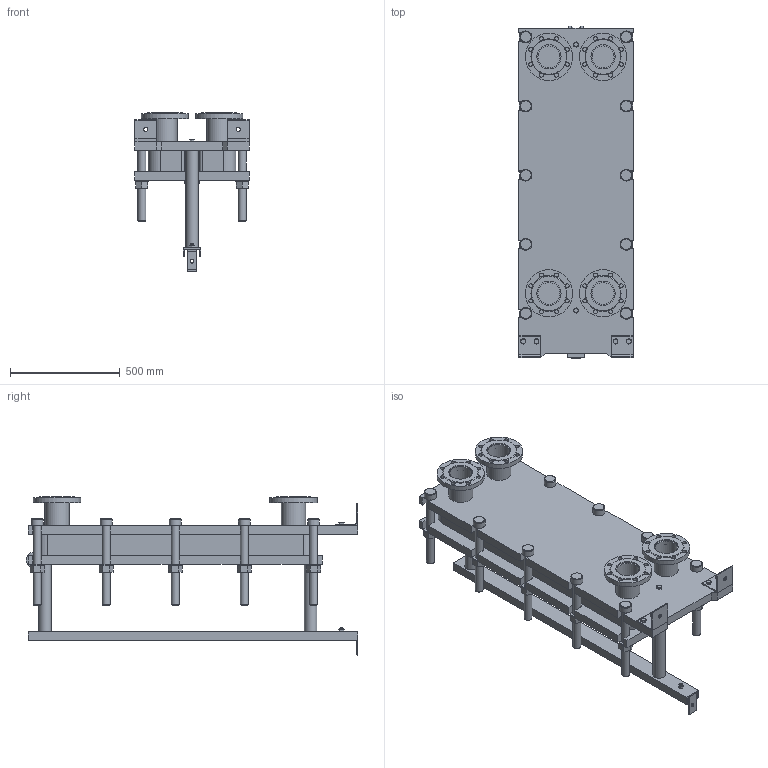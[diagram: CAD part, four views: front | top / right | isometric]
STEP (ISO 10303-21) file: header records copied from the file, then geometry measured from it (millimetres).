
FILE_DESCRIPTION(/* description */ (''),/* implementation_level */ '2;1');
FILE_NAME(/* name */ 'C:\Users\zhuro\Desktop\ENCO\TO\ЭН-04\ЭН-0,5-04-28-1.stp',/* time_stamp */ '2022-06-06T10:46:25+03:00',/* author */ ('zhuro'),/* organization */ (''),/* preprocessor_version */ 'ST-DEVELOPER v18.1',/* originating_system */ 'Autodesk Inventor 2022',/* authorisation */ '');
FILE_SCHEMA (('AUTOMOTIVE_DESIGN { 1 0 10303 214 3 1 1 }'));
Length unit declared in the file: millimetre
Products named in the file (1): ЭН-0,5-04-28-1
Bounding box: 520 x 1510 x 719 mm (x, y, z)
Volume: 115606410.3 mm3; surface area: 6771975.1 mm2
Topology: 45 solids, 45 shells, 668 faces, 1611 edges, 1048 vertices
Faces by surface type: plane 457, cylinder 166, cone 39, torus 6
Full cylindrical faces by diameter (mm): 8 x4, 10 x2, 16 x8, 18 x35, 36 x25, 40 x2, 42 x1, 45 x4, 54 x10, 57 x2, 60 x10, 68 x2, 100 x4, 110 x8, 215 x4
Entity records: 23607 total; most frequent: CARTESIAN_POINT 7348, DIRECTION 3371, ORIENTED_EDGE 3142, EDGE_CURVE 1571, AXIS2_PLACEMENT_3D 1199, VERTEX_POINT 1044, LINE 973, VECTOR 973
